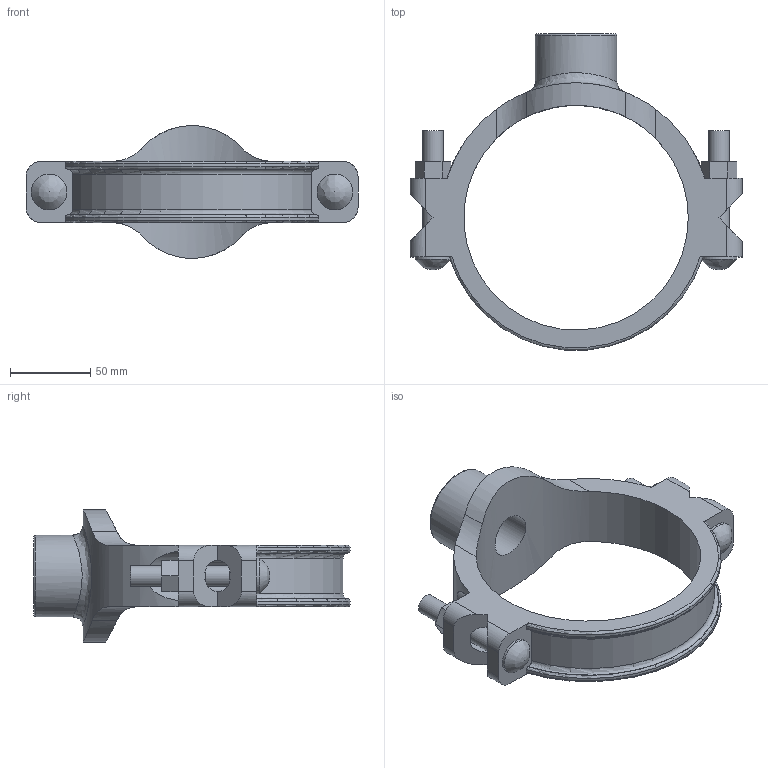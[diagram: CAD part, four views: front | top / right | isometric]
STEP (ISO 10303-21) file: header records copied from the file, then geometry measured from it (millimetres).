
FILE_DESCRIPTION(/* description */ ('VIC SS MECHANICAL T BRANCH OUTLET STYLE 422 (FPT)','CAx-IF Rec.Pracs.---Representation and Presentation of Product Manufacturing Information (PMI)---4.0---2014-10-13'),/* implementation_level */ '2;1');
FILE_NAME(/* name */ 'C:\Files for Export\422\STEP\Victaulic_SS-OGS_Mech-Tee Out_Style 422 (FPT)\Victaulic_SS-OGS_Mech-Tee Out_Style 422 (FPT)_05.0 (139.7)x01.0 (125x25).stp',/* time_stamp */ '2023-03-28T14:29:07+02:00',/* author */ ('jheald'),/* organization */ ('Victaulic'),/* preprocessor_version */ 'ST-DEVELOPER v18.1',/* originating_system */ 'Autodesk Inventor 2020',/* authorisation */ '');
FILE_SCHEMA (('AP242_MANAGED_MODEL_BASED_3D_ENGINEERING_MIM_LF { 1 0 10303 442 1 1 4 }'));
Length unit declared in the file: inch
Products named in the file (1): 422-05.0 (139.7)x01.0
Bounding box: 206.5 x 196.55 x 82.36 mm (x, y, z)
Volume: 352836.4 mm3; surface area: 82835.6 mm2
Topology: 1 solids, 1 shells, 88 faces, 262 edges, 176 vertices
Faces by surface type: plane 44, cylinder 34, torus 7, bspline 3
Full cylindrical faces by diameter (mm): 12.7 x4, 22.225 x2, 26.987 x1, 33.401 x1, 50.8 x1, 139.7 x1
Entity records: 3734 total; most frequent: CARTESIAN_POINT 1122, ORIENTED_EDGE 520, DIRECTION 520, EDGE_CURVE 260, AXIS2_PLACEMENT_3D 190, VERTEX_POINT 176, LINE 140, VECTOR 140
